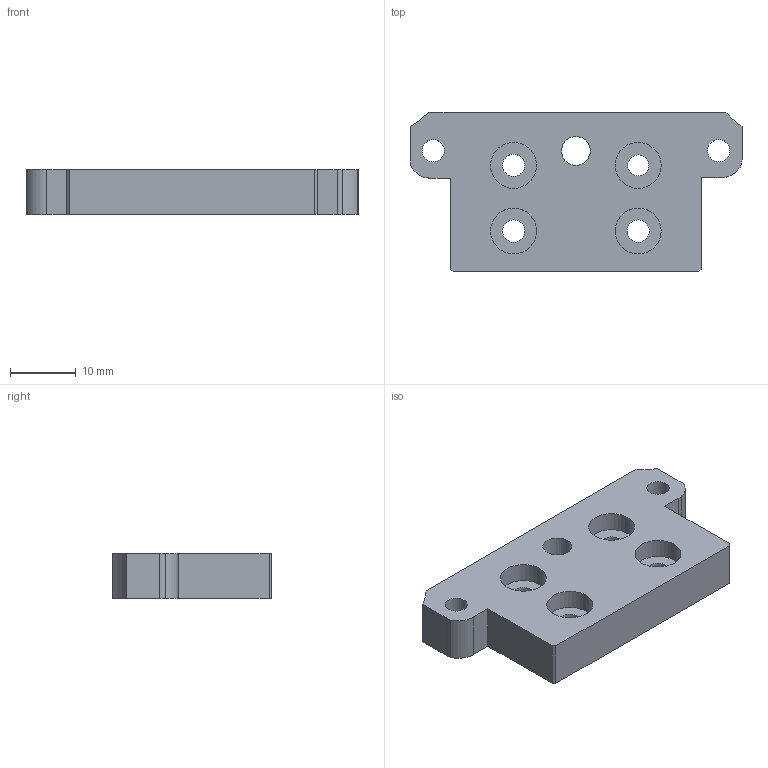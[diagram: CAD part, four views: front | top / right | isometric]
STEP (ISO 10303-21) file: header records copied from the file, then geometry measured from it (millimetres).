
FILE_DESCRIPTION(/* description */ (''),/* implementation_level */ '2;1');
FILE_NAME(/* name */ 'Hummingbird Adapter Plate v1.step',/* time_stamp */ '2023-03-23T06:38:48-06:00',/* author */ (''),/* organization */ (''),/* preprocessor_version */ 'ST-DEVELOPER v19.2',/* originating_system */ 'Autodesk Translation Framework v11.17.0.187',/* authorisation */ '');
FILE_SCHEMA (('AUTOMOTIVE_DESIGN { 1 0 10303 214 3 1 1 }'));
Length unit declared in the file: millimetre
Products named in the file (2): Hummingbird Adapter Plate; Component1
Assembly tree (1 placements, depth 2):
  Hummingbird Adapter Plate
    Component1
Bounding box: 50.6 x 24.3 x 7 mm (x, y, z)
Volume: 6458.5 mm3; surface area: 3634 mm2
Topology: 1 solids, 1 shells, 34 faces, 84 edges, 56 vertices
Faces by surface type: plane 16, cylinder 13, bspline 5
Full cylindrical faces by diameter (mm): 3.2 x1, 3.387 x1, 3.4 x3, 3.401 x1, 4.4 x1, 7 x4
Entity records: 1450 total; most frequent: CARTESIAN_POINT 582, ORIENTED_EDGE 168, DIRECTION 164, EDGE_CURVE 84, AXIS2_PLACEMENT_3D 58, VERTEX_POINT 56, EDGE_LOOP 52, LINE 48
